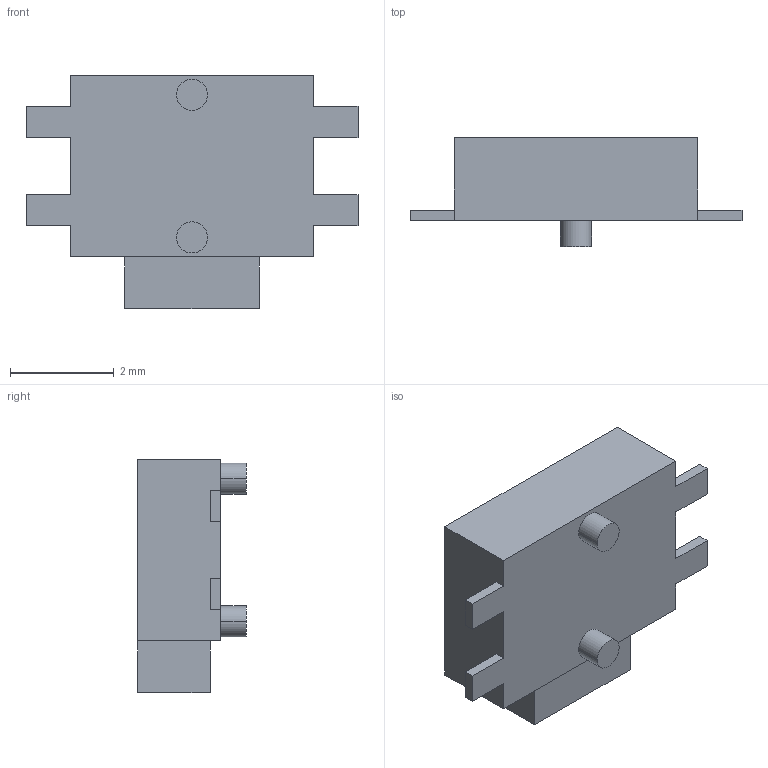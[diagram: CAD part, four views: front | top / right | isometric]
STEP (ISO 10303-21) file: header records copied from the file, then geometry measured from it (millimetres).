
FILE_DESCRIPTION((''),'2;1');
FILE_NAME('SW-TACT_PRT','2008-06-30T',('GRA'),(''),'PRO/ENGINEER BY PARAMETRIC TECHNOLOGY CORPORATION, 2006170','PRO/ENGINEER BY PARAMETRIC TECHNOLOGY CORPORATION, 2006170','');
FILE_SCHEMA(('CONFIG_CONTROL_DESIGN'));
Length unit declared in the file: millimetre
Products named in the file (1): SW-TACT_PRT
Bounding box: 6.4 x 2.1 x 4.5 mm (x, y, z)
Volume: 30.7 mm3; surface area: 74.5 mm2
Topology: 1 solids, 1 shells, 32 faces, 84 edges, 56 vertices
Faces by surface type: plane 28, cylinder 4
Entity records: 1014 total; most frequent: CARTESIAN_POINT 172, ORIENTED_EDGE 168, DIRECTION 156, EDGE_CURVE 84, VECTOR 76, LINE 76, VERTEX_POINT 56, AXIS2_PLACEMENT_3D 40
